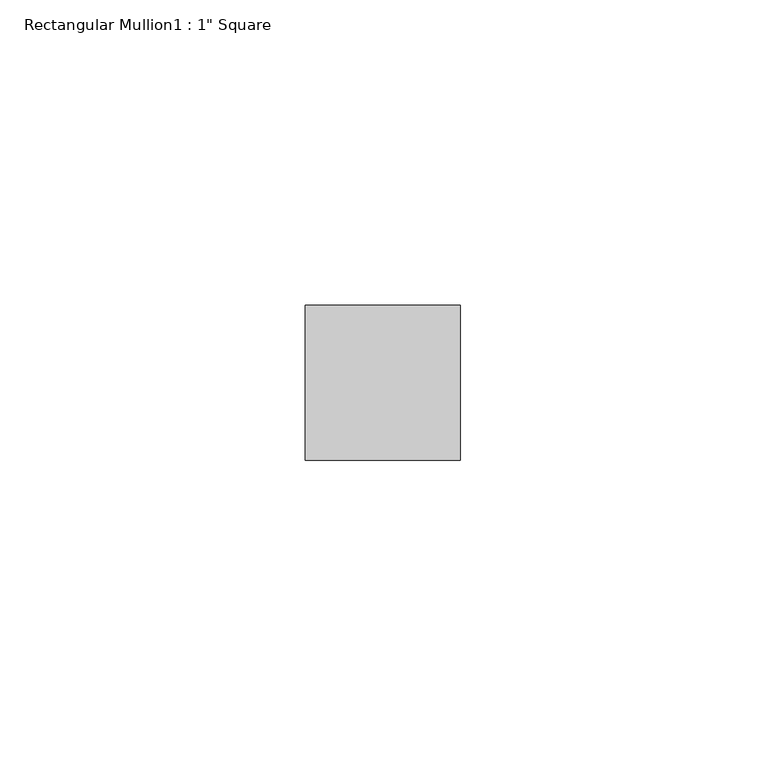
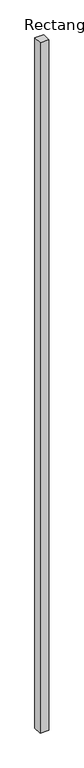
"""IFC4 building model written with IfcOpenShell, lengths in millimetres: member geometry."""

from ifc_helpers import new_model, si_unit, frame, origin, place, context, project, spatial, polyline, outline, extrude, source, transform, mapped, element, save


def member_997af995(model_context):
    return source(origin(), model_context, "Body", "SweptSolid", [
        extrude(outline(polyline([(12.7, -19.05), (12.7, -44.45), (-12.7, -44.45), (-12.7, -19.05), (12.7, -19.05)])), frame((0.0, 0.0, -2095.5), z_axis=(0.0, 0.0, 1.0), x_axis=(1.0, 0.0, 0.0)), (0.0, 0.0, 1.0), 2095.5),
    ])


if __name__ == "__main__":
    model = new_model("IFC4")
    model_context = context("Model", 3, world=origin())
    ifc_project = project(units=[si_unit("LENGTHUNIT", "METRE", prefix="MILLI")], contexts=[model_context])
    site = spatial("IfcSite", under=ifc_project)
    building = spatial("IfcBuilding", under=site)
    placement = place(None, origin())
    member_shape = member_997af995(model_context)
    element("IfcMember", 1, ObjectType="Rectangular Mullion1 : 1\" Square", at=placement, inside=building, context=model_context, shape_type="MappedRepresentation", body=[
        mapped(member_shape, transform((0.0, 0.0, 0.0), x_axis=(1.0, 0.0, 0.0), y_axis=(0.0, 1.0, 0.0), z_axis=(0.0, 0.0, 1.0))),
    ])
    save(model, "model.ifc")
